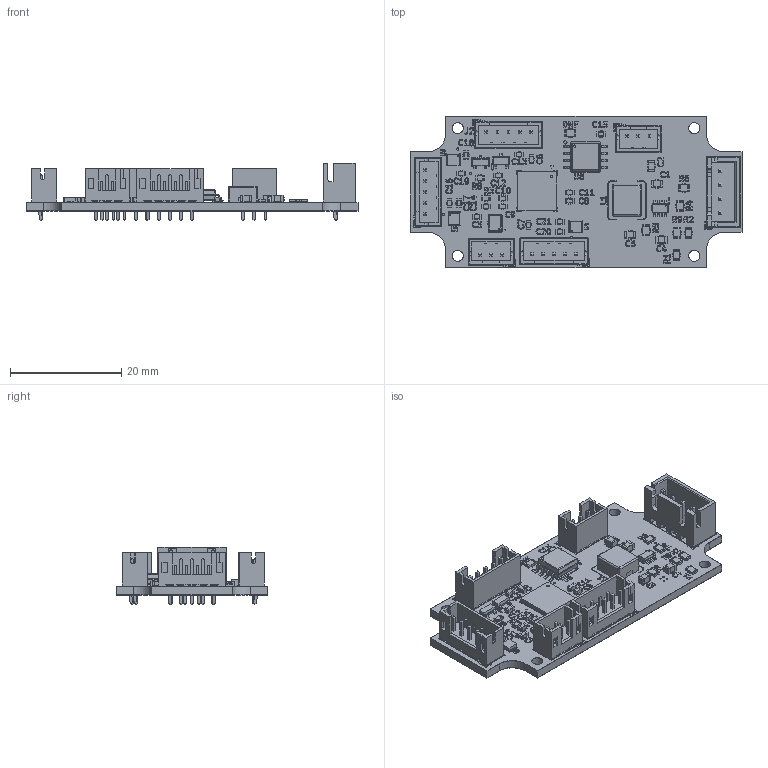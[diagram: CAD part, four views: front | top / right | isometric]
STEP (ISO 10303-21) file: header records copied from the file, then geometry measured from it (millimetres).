
FILE_DESCRIPTION(('KiCad electronic assembly'),'2;1');
FILE_NAME('smart_servo_v2.step','2025-12-06T03:08:05',('Pcbnew'),( 'Kicad'),'Open CASCADE STEP processor 7.8','KiCad to STEP converter' ,'Unknown');
FILE_SCHEMA(('AUTOMOTIVE_DESIGN { 1 0 10303 214 1 1 1 1 }'));
Length unit declared in the file: millimetre
Products named in the file (22): smart_servo_v2 1; C_0805_2012Metric; W25Q32JVSSIQ; C_0603_1608Metric; QFN-56-1EP_7x7mm_P0.4mm_EP3.2x3.2mm; R_0805_2012Metric; JST_PH_B3B-PH-K_1x03_P2.00mm_Vertical; JST_PH_B5B-PH-K_1x05_P2.00mm_Vertical; MP2315GJ-P; Body; PinsArrayLR; L_Bourns_SRP5030T; DRV8837DSGR; R_0603_1608Metric; ABM8-272-T3; JST_XH_B4B-XH-A_1x04_P2.50mm_Vertical; TL431IDBZR_215; AP7370-33SA-7; smart_servo_v2_silkscreen; smart_servo_v2_soldermask; smart_servo_v2_PCB
Assembly tree (52 placements, depth 3):
  smart_servo_v2 1
    C_0805_2012Metric  x4
    W25Q32JVSSIQ
    C_0603_1608Metric  x17
    QFN-56-1EP_7x7mm_P0.4mm_EP3.2x3.2mm
    R_0805_2012Metric  x7
    JST_PH_B3B-PH-K_1x03_P2.00mm_Vertical  x2
    JST_PH_B5B-PH-K_1x05_P2.00mm_Vertical  x3
    MP2315GJ-P
      Body
      PinsArrayLR
    L_Bourns_SRP5030T
    DRV8837DSGR  x3
    R_0603_1608Metric  x2
    ABM8-272-T3
    JST_XH_B4B-XH-A_1x04_P2.50mm_Vertical
    TL431IDBZR_215
    AP7370-33SA-7
    smart_servo_v2_silkscreen
    smart_servo_v2_soldermask
    smart_servo_v2_soldermask
    smart_servo_v2_PCB
Bounding box: 59.6 x 27.2 x 10.4 mm (x, y, z)
Volume: 3318.2 mm3; surface area: 9739.9 mm2
Topology: 125 solids, 312 shells, 3509 faces, 11318 edges, 8359 vertices
Faces by surface type: plane 2766, cylinder 715, torus 16, sphere 12
Full cylindrical faces by diameter (mm): 0.2 x1, 0.3 x82, 0.4 x1, 0.75 x21, 0.95 x4, 2 x4
Entity records: 90331 total; most frequent: CARTESIAN_POINT 15244, DIRECTION 13017, ORIENTED_EDGE 12033, EDGE_CURVE 7384, VERTEX_POINT 5775, LINE 5729, VECTOR 5729, AXIS2_PLACEMENT_3D 3644
